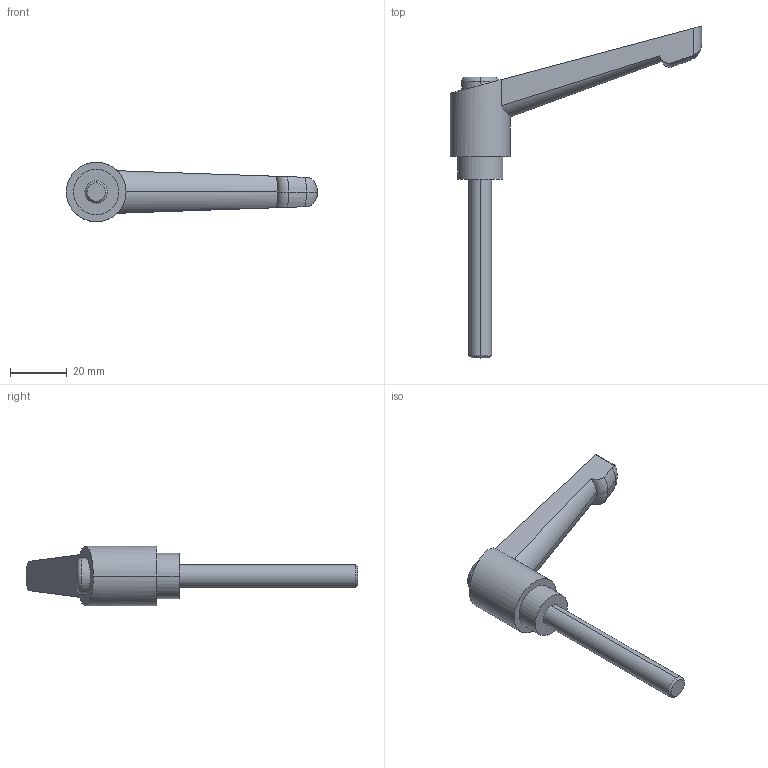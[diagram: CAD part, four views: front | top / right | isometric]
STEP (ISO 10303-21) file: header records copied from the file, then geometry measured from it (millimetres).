
FILE_DESCRIPTION (( 'STEP AP214' ), '1' );
FILE_NAME ('2.9041 Kiinnitysvipu Iso M8 AL L63 ulkokierteellä.STEP', '2025-09-10T07:47:43', ( '' ), ( '' ), 'SwSTEP 2.0', 'SolidWorks 2025', '' );
FILE_SCHEMA (( 'AUTOMOTIVE_DESIGN' ));
Length unit declared in the file: millimetre
Products named in the file (1): 2.9041 Kiinnitysvipu Iso M8 AL L63 ulkokierteellä
Bounding box: 88.5 x 117 x 21 mm (x, y, z)
Volume: 22641.9 mm3; surface area: 7399.1 mm2
Topology: 1 solids, 1 shells, 55 faces, 136 edges, 85 vertices
Faces by surface type: cylinder 31, cone 11, plane 7, torus 6
Entity records: 2328 total; most frequent: CARTESIAN_POINT 1109, ORIENTED_EDGE 268, DIRECTION 216, EDGE_CURVE 134, AXIS2_PLACEMENT_3D 89, VERTEX_POINT 85, B_SPLINE_CURVE_WITH_KNOTS 63, EDGE_LOOP 59
